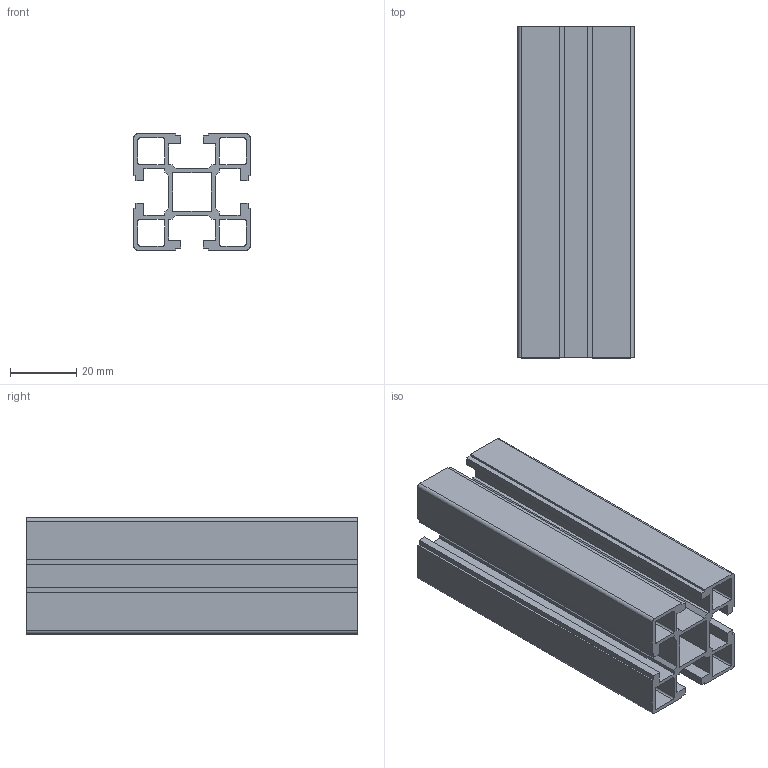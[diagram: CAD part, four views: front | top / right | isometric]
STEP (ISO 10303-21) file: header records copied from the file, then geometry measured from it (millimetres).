
FILE_DESCRIPTION(/* description */ (''),/* implementation_level */ '2;1');
FILE_NAME(/* name */ 'C:\Users\Owner\Documents\硯聰\Inv材料庫-3D新型錄\AM-(鋁擠)\6系列\AM6-3535_100L.stp',/* time_stamp */ '2019-02-21T14:01:32+08:00',/* author */ ('Owner'),/* organization */ (''),/* preprocessor_version */ 'ST-DEVELOPER v16.1',/* originating_system */ 'Autodesk Inventor 2016',/* authorisation */ '');
FILE_SCHEMA (('AUTOMOTIVE_DESIGN { 1 0 10303 214 3 1 1 }'));
Length unit declared in the file: millimetre
Products named in the file (1): AM6-3535_100L
Bounding box: 35 x 100 x 35 mm (x, y, z)
Volume: 33552 mm3; surface area: 45433.6 mm2
Topology: 1 solids, 1 shells, 110 faces, 324 edges, 216 vertices
Faces by surface type: plane 90, cylinder 20
Entity records: 3672 total; most frequent: CARTESIAN_POINT 651, ORIENTED_EDGE 648, DIRECTION 586, EDGE_CURVE 324, LINE 284, VECTOR 284, VERTEX_POINT 216, AXIS2_PLACEMENT_3D 151
